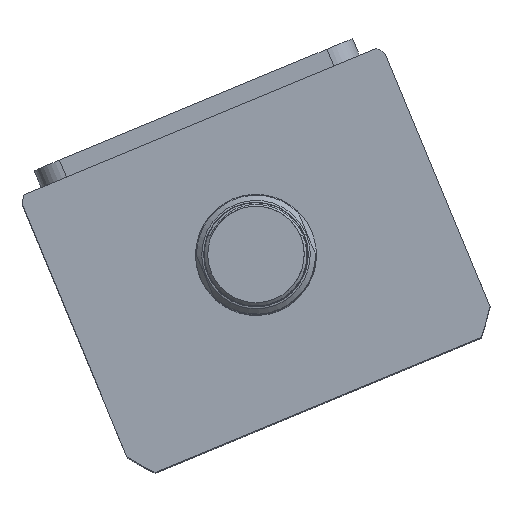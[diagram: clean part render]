
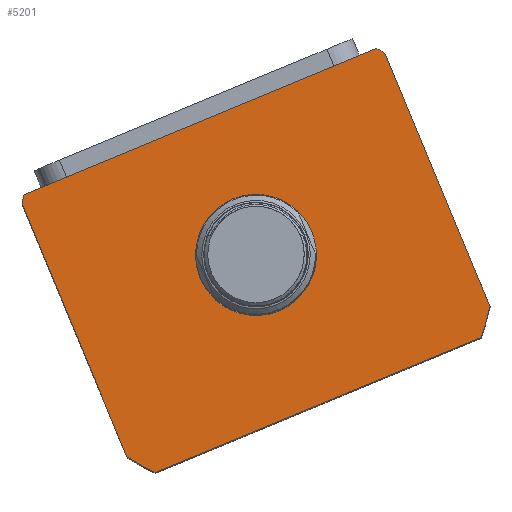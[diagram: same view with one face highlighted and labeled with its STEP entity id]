
A CAD part, top view. The second image highlights one B-rep face of the part: STEP entity #5201.
In plain terms, the highlighted planar face has unit normal (0, 0, 1) as drawn and (0, 0, -1) by its records, which use the part's own axes.
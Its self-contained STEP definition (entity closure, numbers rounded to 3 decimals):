
#15 = VERTEX_POINT ( 'NONE', #243 ) ;
#243 = CARTESIAN_POINT ( 'NONE',  ( -57., -37.265, 0. ) ) ;
#276 = DIRECTION ( 'NONE',  ( 0., 0., 1. ) ) ;
#384 = DIRECTION ( 'NONE',  ( 1., 0., 0. ) ) ;
#461 = EDGE_CURVE ( 'NONE', #13628, #13632, #13834, .T. ) ;
#556 = DIRECTION ( 'NONE',  ( 0., 1., 0. ) ) ;
#603 = LINE ( 'NONE', #16644, #5134 ) ;
#1073 = VECTOR ( 'NONE', #556, 1000. ) ;
#1392 = PLANE ( 'NONE',  #18473 ) ;
#1495 = ORIENTED_EDGE ( 'NONE', *, *, #9741, .F. ) ;
#1947 = DIRECTION ( 'NONE',  ( 1., 0., 0. ) ) ;
#2725 = VERTEX_POINT ( 'NONE', #19025 ) ;
#3642 = DIRECTION ( 'NONE',  ( 1., 0., 0. ) ) ;
#3673 = DIRECTION ( 'NONE',  ( 0., 0., 1. ) ) ;
#3676 = CARTESIAN_POINT ( 'NONE',  ( 0., 2.5, 0. ) ) ;
#3797 = ORIENTED_EDGE ( 'NONE', *, *, #27962, .F. ) ;
#3864 = AXIS2_PLACEMENT_3D ( 'NONE', #3676, #3673, #3642 ) ;
#4138 = ORIENTED_EDGE ( 'NONE', *, *, #17166, .F. ) ;
#4152 = EDGE_CURVE ( 'NONE', #6237, #14728, #10670, .T. ) ;
#4851 = VECTOR ( 'NONE', #25449, 1000. ) ;
#5134 = VECTOR ( 'NONE', #12325, 1000. ) ;
#5139 = ORIENTED_EDGE ( 'NONE', *, *, #461, .F. ) ;
#5201 = ADVANCED_FACE ( 'NONE', ( #5545, #16372 ), #1392, .F. ) ;
#5271 = ORIENTED_EDGE ( 'NONE', *, *, #4152, .F. ) ;
#5332 = DIRECTION ( 'NONE',  ( 0., 0., 1. ) ) ;
#5545 = FACE_BOUND ( 'NONE', #19185, .T. ) ;
#5891 = DIRECTION ( 'NONE',  ( 0., 0., 1. ) ) ;
#6122 = ORIENTED_EDGE ( 'NONE', *, *, #8254, .F. ) ;
#6191 = CIRCLE ( 'NONE', #26816, 69.5 ) ;
#6237 = VERTEX_POINT ( 'NONE', #17045 ) ;
#6451 = DIRECTION ( 'NONE',  ( 1., 0., 0. ) ) ;
#6552 = VERTEX_POINT ( 'NONE', #20109 ) ;
#6572 = ORIENTED_EDGE ( 'NONE', *, *, #13844, .F. ) ;
#7711 = CARTESIAN_POINT ( 'NONE',  ( 0., 2.5, 0. ) ) ;
#8254 = EDGE_CURVE ( 'NONE', #15, #20091, #6191, .T. ) ;
#8345 = LINE ( 'NONE', #11127, #1073 ) ;
#9442 = CARTESIAN_POINT ( 'NONE',  ( 57., -37.265, 0. ) ) ;
#9741 = EDGE_CURVE ( 'NONE', #20091, #13628, #25731, .T. ) ;
#9896 = DIRECTION ( 'NONE',  ( 1., 0., 0. ) ) ;
#10670 = LINE ( 'NONE', #12534, #4851 ) ;
#10697 = VERTEX_POINT ( 'NONE', #17493 ) ;
#10899 = CIRCLE ( 'NONE', #12837, 17.5 ) ;
#11127 = CARTESIAN_POINT ( 'NONE',  ( 57., 44.5, 0. ) ) ;
#11588 = CIRCLE ( 'NONE', #20030, 69.5 ) ;
#12160 = CARTESIAN_POINT ( 'NONE',  ( -51.198, -44.5, 0. ) ) ;
#12325 = DIRECTION ( 'NONE',  ( 0., -1., 0. ) ) ;
#12534 = CARTESIAN_POINT ( 'NONE',  ( -57., 44.5, 0. ) ) ;
#12837 = AXIS2_PLACEMENT_3D ( 'NONE', #13408, #276, #15579 ) ;
#13408 = CARTESIAN_POINT ( 'NONE',  ( 0., 2.5, 0. ) ) ;
#13501 = DIRECTION ( 'NONE',  ( 0., 0., 1. ) ) ;
#13614 = AXIS2_PLACEMENT_3D ( 'NONE', #18286, #5332, #20431 ) ;
#13628 = VERTEX_POINT ( 'NONE', #22323 ) ;
#13632 = VERTEX_POINT ( 'NONE', #9442 ) ;
#13834 = CIRCLE ( 'NONE', #3864, 69.5 ) ;
#13844 = EDGE_CURVE ( 'NONE', #2725, #6237, #20060, .T. ) ;
#14273 = VECTOR ( 'NONE', #6451, 1000. ) ;
#14728 = VERTEX_POINT ( 'NONE', #21590 ) ;
#15042 = DIRECTION ( 'NONE',  ( 0., 0., 1. ) ) ;
#15092 = ORIENTED_EDGE ( 'NONE', *, *, #18744, .F. ) ;
#15579 = DIRECTION ( 'NONE',  ( 1., 0., 0. ) ) ;
#16040 = ORIENTED_EDGE ( 'NONE', *, *, #18706, .T. ) ;
#16372 = FACE_OUTER_BOUND ( 'NONE', #23096, .T. ) ;
#16644 = CARTESIAN_POINT ( 'NONE',  ( -57., 44.5, 0. ) ) ;
#17045 = CARTESIAN_POINT ( 'NONE',  ( 55.374, 44.5, 0. ) ) ;
#17166 = EDGE_CURVE ( 'NONE', #6552, #15, #603, .T. ) ;
#17215 = CARTESIAN_POINT ( 'NONE',  ( -57., -44.5, 0. ) ) ;
#17493 = CARTESIAN_POINT ( 'NONE',  ( 17.5, 2.5, 0. ) ) ;
#18286 = CARTESIAN_POINT ( 'NONE',  ( 0., 2.5, 0. ) ) ;
#18473 = AXIS2_PLACEMENT_3D ( 'NONE', #20871, #5891, #20961 ) ;
#18706 = EDGE_CURVE ( 'NONE', #10697, #27417, #10899, .T. ) ;
#18744 = EDGE_CURVE ( 'NONE', #14728, #6552, #11588, .T. ) ;
#19025 = CARTESIAN_POINT ( 'NONE',  ( 57., 42.265, 0. ) ) ;
#19185 = EDGE_LOOP ( 'NONE', ( #16040, #26988 ) ) ;
#20030 = AXIS2_PLACEMENT_3D ( 'NONE', #26414, #13501, #384 ) ;
#20060 = CIRCLE ( 'NONE', #22705, 69.5 ) ;
#20091 = VERTEX_POINT ( 'NONE', #12160 ) ;
#20109 = CARTESIAN_POINT ( 'NONE',  ( -57., 42.265, 0. ) ) ;
#20431 = DIRECTION ( 'NONE',  ( 1., 0., 0. ) ) ;
#20871 = CARTESIAN_POINT ( 'NONE',  ( 0., 0., 0. ) ) ;
#20961 = DIRECTION ( 'NONE',  ( 1., 0., 0. ) ) ;
#21590 = CARTESIAN_POINT ( 'NONE',  ( -55.374, 44.5, 0. ) ) ;
#22323 = CARTESIAN_POINT ( 'NONE',  ( 51.198, -44.5, 0. ) ) ;
#22705 = AXIS2_PLACEMENT_3D ( 'NONE', #7711, #22785, #9896 ) ;
#22785 = DIRECTION ( 'NONE',  ( 0., 0., 1. ) ) ;
#23096 = EDGE_LOOP ( 'NONE', ( #6572, #3797, #5139, #1495, #6122, #4138, #15092, #5271 ) ) ;
#24938 = CIRCLE ( 'NONE', #13614, 17.5 ) ;
#24970 = EDGE_CURVE ( 'NONE', #27417, #10697, #24938, .T. ) ;
#25449 = DIRECTION ( 'NONE',  ( -1., 0., 0. ) ) ;
#25731 = LINE ( 'NONE', #17215, #14273 ) ;
#26414 = CARTESIAN_POINT ( 'NONE',  ( 0., 2.5, 0. ) ) ;
#26816 = AXIS2_PLACEMENT_3D ( 'NONE', #27940, #15042, #1947 ) ;
#26916 = CARTESIAN_POINT ( 'NONE',  ( -17.5, 2.5, 0. ) ) ;
#26988 = ORIENTED_EDGE ( 'NONE', *, *, #24970, .T. ) ;
#27417 = VERTEX_POINT ( 'NONE', #26916 ) ;
#27940 = CARTESIAN_POINT ( 'NONE',  ( 0., 2.5, 0. ) ) ;
#27962 = EDGE_CURVE ( 'NONE', #13632, #2725, #8345, .T. ) ;
